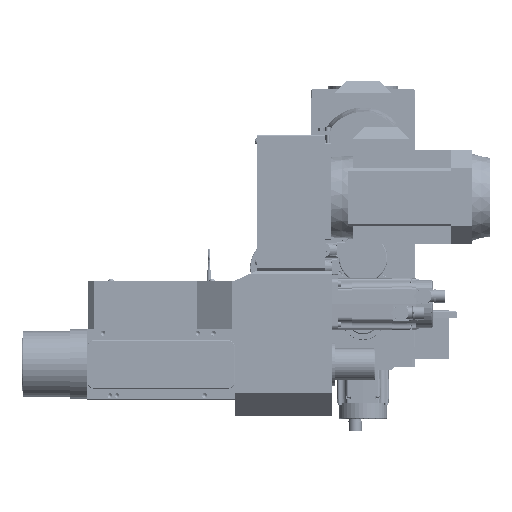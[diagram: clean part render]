
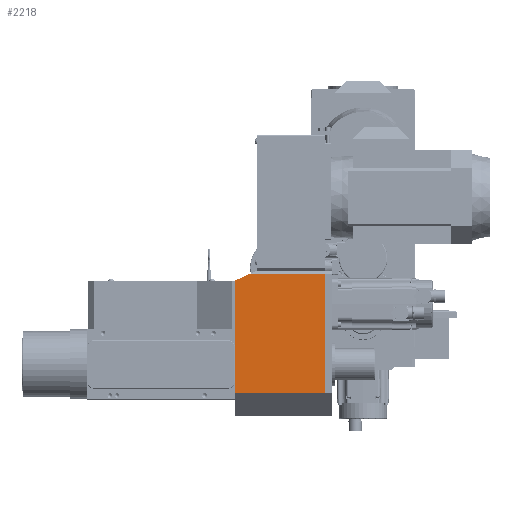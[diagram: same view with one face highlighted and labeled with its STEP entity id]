
A CAD part, front view. The second image highlights one B-rep face of the part: STEP entity #2218.
In plain terms, the highlighted planar face has unit normal (0, -1, 0) as drawn and (-1, 0, 0) by its records, which use the part's own axes.
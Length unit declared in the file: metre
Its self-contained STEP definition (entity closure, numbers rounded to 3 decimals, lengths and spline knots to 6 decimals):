
#2218 = ADVANCED_FACE( '', ( #3935 ), #3936, .F. );
#3935 = FACE_OUTER_BOUND( '', #7399, .T. );
#3936 = PLANE( '', #7400 );
#7399 = EDGE_LOOP( '', ( #12488, #12489, #12490, #12491, #12492 ) );
#7400 = AXIS2_PLACEMENT_3D( '', #12493, #12494, #12495 );
#12488 = ORIENTED_EDGE( '', *, *, #22460, .F. );
#12489 = ORIENTED_EDGE( '', *, *, #22461, .T. );
#12490 = ORIENTED_EDGE( '', *, *, #22462, .T. );
#12491 = ORIENTED_EDGE( '', *, *, #22458, .T. );
#12492 = ORIENTED_EDGE( '', *, *, #22463, .T. );
#12493 = CARTESIAN_POINT( '', ( -0.155, 0.019444, 0.253 ) );
#12494 = DIRECTION( '', ( 1., 0., 0. ) );
#12495 = DIRECTION( '', ( 0., 0., -1. ) );
#22458 = EDGE_CURVE( '', #25802, #25800, #25803, .T. );
#22460 = EDGE_CURVE( '', #25805, #25806, #25807, .T. );
#22461 = EDGE_CURVE( '', #25805, #25808, #25809, .T. );
#22462 = EDGE_CURVE( '', #25808, #25802, #25810, .T. );
#22463 = EDGE_CURVE( '', #25800, #25806, #25811, .T. );
#25800 = VERTEX_POINT( '', #31229 );
#25802 = VERTEX_POINT( '', #31232 );
#25803 = LINE( '', #31233, #31234 );
#25805 = VERTEX_POINT( '', #31237 );
#25806 = VERTEX_POINT( '', #31238 );
#25807 = LINE( '', #31239, #31240 );
#25808 = VERTEX_POINT( '', #31241 );
#25809 = LINE( '', #31242, #31243 );
#25810 = LINE( '', #31244, #31245 );
#25811 = LINE( '', #31246, #31247 );
#31229 = CARTESIAN_POINT( '', ( -0.155, 0.019444, 0.04 ) );
#31232 = CARTESIAN_POINT( '', ( -0.155, 0.019444, 0.236 ) );
#31233 = CARTESIAN_POINT( '', ( -0.155, 0.019444, 0.253 ) );
#31234 = VECTOR( '', #41281, 1. );
#31237 = CARTESIAN_POINT( '', ( -0.155, -0.137056, 0.248 ) );
#31238 = CARTESIAN_POINT( '', ( -0.155, -0.137056, 0.04 ) );
#31239 = CARTESIAN_POINT( '', ( -0.155, -0.137056, 0.253 ) );
#31240 = VECTOR( '', #41283, 1. );
#31241 = CARTESIAN_POINT( '', ( -0.155, -0.007026, 0.248 ) );
#31242 = CARTESIAN_POINT( '', ( -0.155, -0.018056, 0.248 ) );
#31243 = VECTOR( '', #41284, 1. );
#31244 = CARTESIAN_POINT( '', ( -0.155, -0.018056, 0.253 ) );
#31245 = VECTOR( '', #41285, 1. );
#31246 = CARTESIAN_POINT( '', ( -0.155, 0.019444, 0.04 ) );
#31247 = VECTOR( '', #41286, 1. );
#41281 = DIRECTION( '', ( 0., 0., -1. ) );
#41283 = DIRECTION( '', ( 0., 0., -1. ) );
#41284 = DIRECTION( '', ( 0., 1., 0. ) );
#41285 = DIRECTION( '', ( 0., 0.911, -0.413 ) );
#41286 = DIRECTION( '', ( 0., -1., 0. ) );
